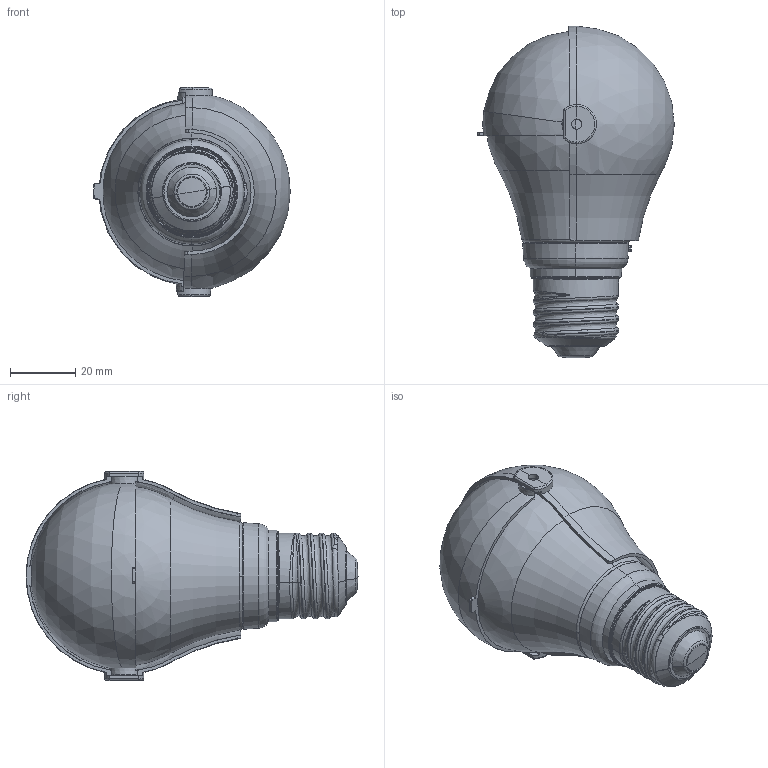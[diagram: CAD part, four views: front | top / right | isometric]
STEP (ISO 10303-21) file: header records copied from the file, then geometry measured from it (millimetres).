
FILE_DESCRIPTION(('FreeCAD Model'),'2;1');
FILE_NAME('Open CASCADE Shape Model','2024-08-30T10:11:36',( 'Lukas Balthasar Pank'),('Astera LED Technology GmbH'), 'Open CASCADE STEP processor 7.6','FreeCAD','Unknown');
FILE_SCHEMA(('AUTOMOTIVE_DESIGN { 1 0 10303 214 1 1 1 1 }'));
Length unit declared in the file: millimetre
Products named in the file (15): FP7+FP7-LSDF_LunaBulb+LunaShade with Diffusor_3Dstep_V2; LunaBulb; Lamp cup-L; inner diffuser holder; release button; spring; LunaBulb_InnerDome; LunaShade_Body; LunaBulb_E27; LunaShade; LunaShade Diffusion
Assembly tree (16 placements, depth 4):
  FP7+FP7-LSDF_LunaBulb+LunaShade with Diffusor_3Dstep_V2
    LunaBulb
      Lamp cup-L
      inner diffuser holder
      release button
      spring
        spring
        spring
      spring
        spring
        spring
    LunaBulb_InnerDome
    LunaShade_Body
    LunaBulb_E27
    LunaShade
      LunaShade Diffusion
      LunaShade_Body
Bounding box: 60.13 x 101.6 x 64 mm (x, y, z)
Volume: 29353.4 mm3; surface area: 59855.6 mm2
Topology: 8 solids, 12 shells, 4747 faces, 12951 edges, 8586 vertices
Faces by surface type: bspline 2523, plane 1204, cylinder 849, cone 72, torus 67, sphere 28, revolution 4
Entity records: 207336 total; most frequent: CARTESIAN_POINT 108891, ORIENTED_EDGE 25850, EDGE_CURVE 12927, DIRECTION 10861, VERTEX_POINT 8578, B_SPLINE_CURVE_WITH_KNOTS 8514, FACE_BOUND 5127, EDGE_LOOP 5127
